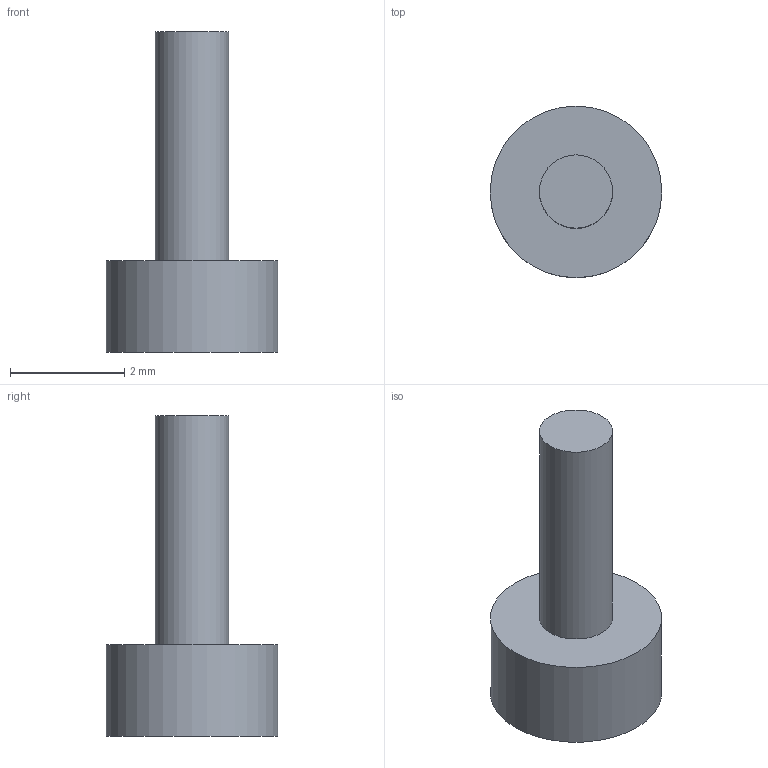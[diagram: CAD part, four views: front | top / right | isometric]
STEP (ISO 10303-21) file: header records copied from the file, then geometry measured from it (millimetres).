
FILE_DESCRIPTION(('Open CASCADE Model'),'2;1');
FILE_NAME('Open CASCADE Shape Model','2026-09-24T17:42:54',('Author'),( 'Open CASCADE'),'Open CASCADE STEP processor 7.8','Open CASCADE 7.8' ,'Unknown');
FILE_SCHEMA(('AUTOMOTIVE_DESIGN { 1 0 10303 214 1 1 1 1 }'));
Length unit declared in the file: millimetre
Products named in the file (1): Open CASCADE STEP translator 7.8 57
Bounding box: 3 x 3 x 5.6 mm (x, y, z)
Volume: 16.5 mm3; surface area: 45.3 mm2
Topology: 1 solids, 1 shells, 5 faces, 6 edges, 4 vertices
Faces by surface type: plane 3, cylinder 2
Full cylindrical faces by diameter (mm): 1.28 x1, 3 x1
Entity records: 192 total; most frequent: DIRECTION 34, CARTESIAN_POINT 28, ORIENTED_EDGE 12, PCURVE 12, DEFINITIONAL_REPRESENTATION 12, AXIS2_PLACEMENT_3D 10, LINE 10, VECTOR 10
